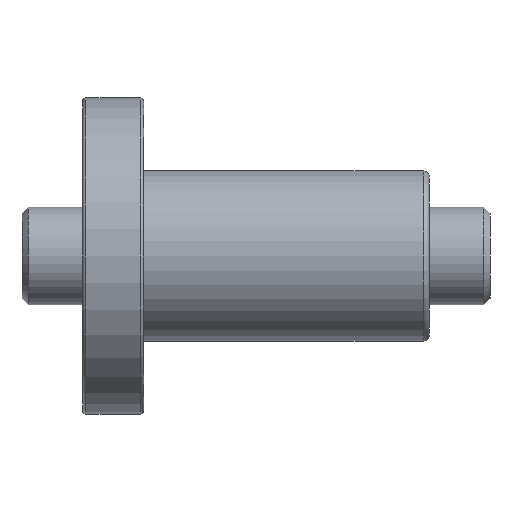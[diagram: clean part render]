
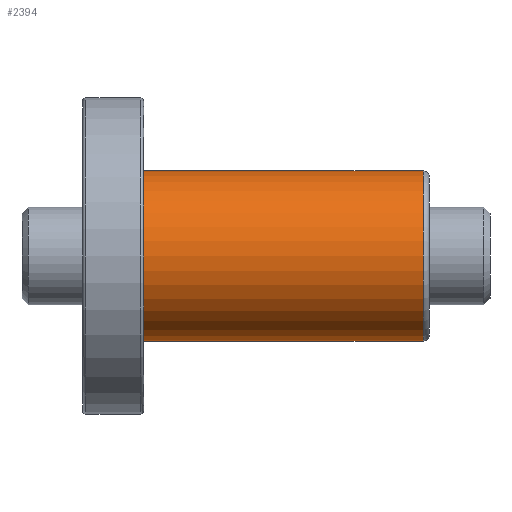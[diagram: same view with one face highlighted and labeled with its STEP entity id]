
A CAD part, front view. The second image highlights one B-rep face of the part: STEP entity #2394.
In plain terms, the highlighted cylindrical face has radius 14 mm (diameter 28 mm), a partial arc.
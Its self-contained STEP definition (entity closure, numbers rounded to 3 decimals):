
#108 = DIRECTION ( 'NONE',  ( -1., 0., 0. ) ) ;
#174 = CARTESIAN_POINT ( 'NONE',  ( 10., 0., -14. ) ) ;
#186 = VERTEX_POINT ( 'NONE', #3116 ) ;
#355 = DIRECTION ( 'NONE',  ( -1., 0., 0. ) ) ;
#368 = EDGE_LOOP ( 'NONE', ( #1304, #547, #3047, #796 ) ) ;
#373 = CARTESIAN_POINT ( 'NONE',  ( 40., 0., 14. ) ) ;
#547 = ORIENTED_EDGE ( 'NONE', *, *, #3036, .T. ) ;
#603 = DIRECTION ( 'NONE',  ( 1., 0., 0. ) ) ;
#708 = DIRECTION ( 'NONE',  ( -1., 0., 0. ) ) ;
#796 = ORIENTED_EDGE ( 'NONE', *, *, #3865, .T. ) ;
#1304 = ORIENTED_EDGE ( 'NONE', *, *, #2931, .F. ) ;
#1340 = DIRECTION ( 'NONE',  ( -1., 0., 0. ) ) ;
#1410 = CIRCLE ( 'NONE', #3927, 14. ) ;
#1500 = CYLINDRICAL_SURFACE ( 'NONE', #1686, 14. ) ;
#1593 = EDGE_CURVE ( 'NONE', #186, #3458, #3272, .T. ) ;
#1655 = CARTESIAN_POINT ( 'NONE',  ( 56., 0., -14. ) ) ;
#1686 = AXIS2_PLACEMENT_3D ( 'NONE', #2363, #108, #2318 ) ;
#1847 = CARTESIAN_POINT ( 'NONE',  ( 10., 0., 14. ) ) ;
#2155 = VECTOR ( 'NONE', #1340, 1000. ) ;
#2318 = DIRECTION ( 'NONE',  ( 0., 0., 1. ) ) ;
#2320 = FACE_OUTER_BOUND ( 'NONE', #368, .T. ) ;
#2363 = CARTESIAN_POINT ( 'NONE',  ( 40., 0., 0. ) ) ;
#2394 = ADVANCED_FACE ( 'NONE', ( #2320 ), #1500, .T. ) ;
#2414 = LINE ( 'NONE', #3145, #4009 ) ;
#2556 = CIRCLE ( 'NONE', #2775, 14. ) ;
#2631 = DIRECTION ( 'NONE',  ( 0., 0., -1. ) ) ;
#2746 = DIRECTION ( 'NONE',  ( 0., 0., -1. ) ) ;
#2775 = AXIS2_PLACEMENT_3D ( 'NONE', #3235, #708, #2631 ) ;
#2799 = VERTEX_POINT ( 'NONE', #1655 ) ;
#2931 = EDGE_CURVE ( 'NONE', #2799, #3824, #2414, .T. ) ;
#3036 = EDGE_CURVE ( 'NONE', #2799, #186, #2556, .T. ) ;
#3047 = ORIENTED_EDGE ( 'NONE', *, *, #1593, .T. ) ;
#3052 = CARTESIAN_POINT ( 'NONE',  ( 10., 0., 0. ) ) ;
#3116 = CARTESIAN_POINT ( 'NONE',  ( 56., 0., 14. ) ) ;
#3145 = CARTESIAN_POINT ( 'NONE',  ( 40., 0., -14. ) ) ;
#3235 = CARTESIAN_POINT ( 'NONE',  ( 56., 0., 0. ) ) ;
#3272 = LINE ( 'NONE', #373, #2155 ) ;
#3458 = VERTEX_POINT ( 'NONE', #1847 ) ;
#3824 = VERTEX_POINT ( 'NONE', #174 ) ;
#3865 = EDGE_CURVE ( 'NONE', #3458, #3824, #1410, .T. ) ;
#3927 = AXIS2_PLACEMENT_3D ( 'NONE', #3052, #603, #2746 ) ;
#4009 = VECTOR ( 'NONE', #355, 1000. ) ;
